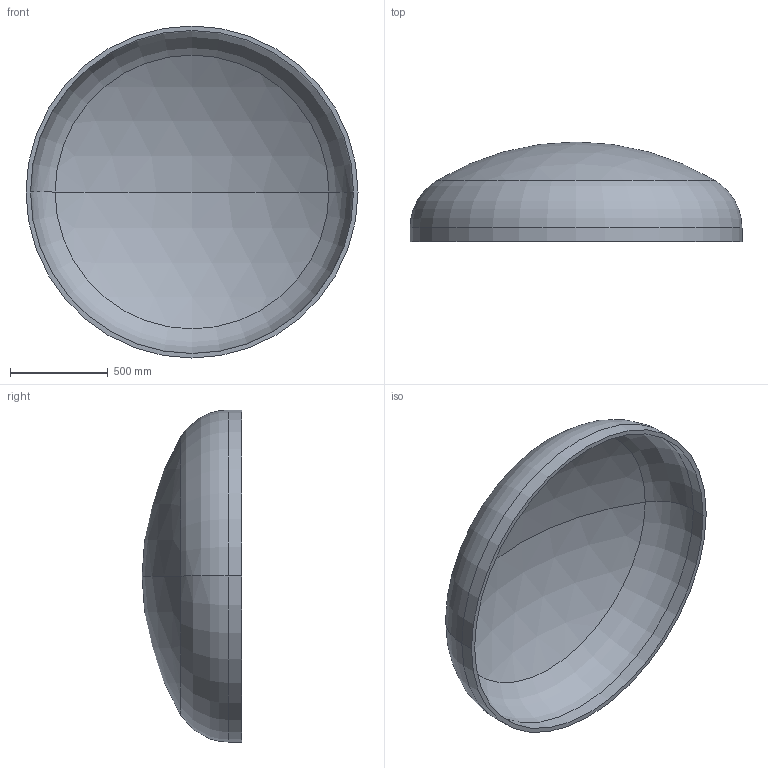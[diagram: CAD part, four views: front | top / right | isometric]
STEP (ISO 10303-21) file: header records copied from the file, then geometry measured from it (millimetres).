
FILE_DESCRIPTION (( 'STEP AP203' ), '1' );
FILE_NAME ('DIN 28013 Korbbogenform_-_Boden DIN 28013 - 1700 x 70 - I - s=23.step', '2016-07-01T11:41:42', ( '' ), ( '' ), 'SwSTEP 2.0', 'SolidWorks 2013', '' );
FILE_SCHEMA (( 'CONFIG_CONTROL_DESIGN' ));
Length unit declared in the file: millimetre
Products named in the file (1): DIN 28013 Korbbogenform_-_Boden DIN 28013 - 1700 x 70 - I - s=23
Bounding box: 1700 x 510.39 x 1700 mm (x, y, z)
Volume: 79408544.3 mm3; surface area: 7027370.7 mm2
Topology: 1 solids, 1 shells, 13 faces, 24 edges, 14 vertices
Faces by surface type: torus 4, cylinder 4, sphere 4, plane 1
Entity records: 407 total; most frequent: DIRECTION 72, CARTESIAN_POINT 52, ORIENTED_EDGE 48, AXIS2_PLACEMENT_3D 34, EDGE_CURVE 24, CIRCLE 20, VERTEX_POINT 14, EDGE_LOOP 14
